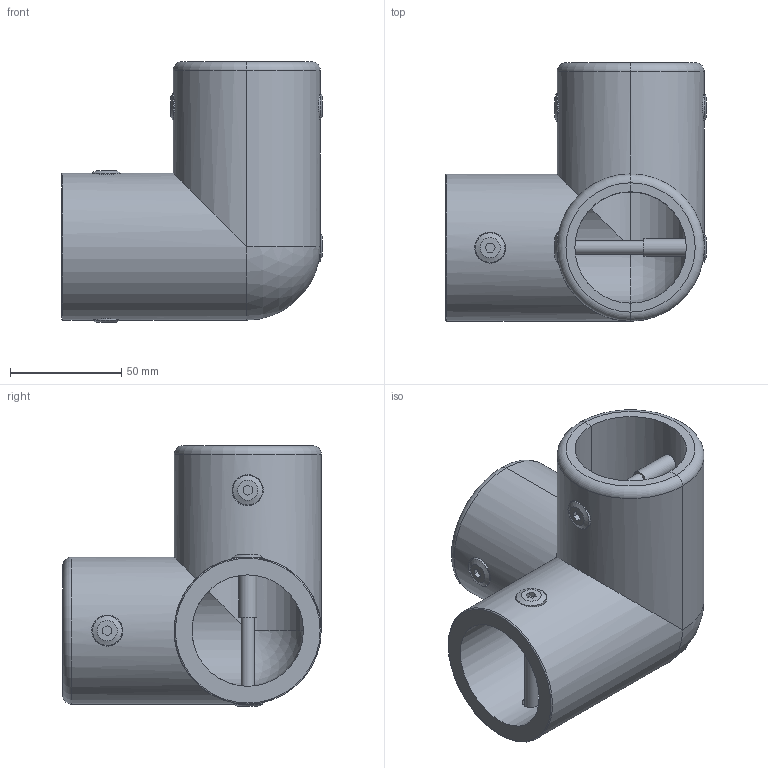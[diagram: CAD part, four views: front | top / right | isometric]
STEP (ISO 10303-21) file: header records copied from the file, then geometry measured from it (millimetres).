
FILE_DESCRIPTION(/* description */ (''),/* implementation_level */ '2;1');
FILE_NAME(/* name */ 'C:\Users\Callum\The Trustee for INKSTONE UNIT TRUST\GRP Australia - Documents\8 Drawings\Handrails\3D Models\Handrail Fittings STEP\MH3 - Corner.stp',/* time_stamp */ '2022-09-15T12:29:20+10:00',/* author */ ('Callum'),/* organization */ (''),/* preprocessor_version */ 'ST-DEVELOPER v18.1',/* originating_system */ 'Autodesk Inventor 2022',/* authorisation */ '');
FILE_SCHEMA (('AUTOMOTIVE_DESIGN { 1 0 10303 214 3 1 1 }'));
Length unit declared in the file: millimetre
Products named in the file (6): MH3 - Corner; MH3-Corner Part B; MH4-Corner; MHR M6 BARREL NUT & SET SCREW; M6x8 Barrel Nut; M6x50 Soc Head Screw
Assembly tree (7 placements, depth 3):
  MH3 - Corner
    MH3-Corner Part B
    MH4-Corner
    MHR M6 BARREL NUT & SET SCREW  x3
      M6x8 Barrel Nut
      M6x50 Soc Head Screw
Bounding box: 117 x 116 x 117 mm (x, y, z)
Volume: 308483.6 mm3; surface area: 93159 mm2
Topology: 8 solids, 8 shells, 128 faces, 286 edges, 190 vertices
Faces by surface type: plane 78, cylinder 31, cone 6, bspline 6, torus 5, sphere 2
Full cylindrical faces by diameter (mm): 5 x3, 6 x3, 8 x9, 14 x6, 50 x1, 66 x1
Entity records: 2841 total; most frequent: CARTESIAN_POINT 836, DIRECTION 383, ORIENTED_EDGE 344, EDGE_CURVE 172, AXIS2_PLACEMENT_3D 151, VERTEX_POINT 116, EDGE_LOOP 94, LINE 81
